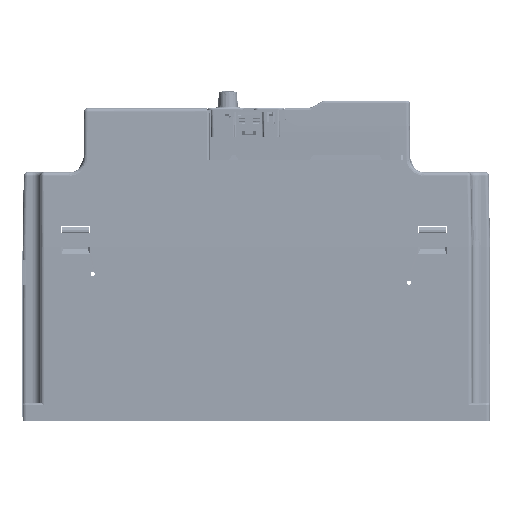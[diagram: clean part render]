
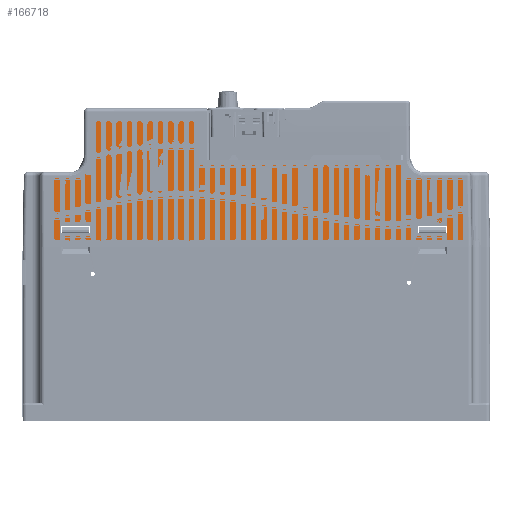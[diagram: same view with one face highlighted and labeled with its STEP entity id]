
A CAD part, left-side view. The second image highlights one B-rep face of the part: STEP entity #166718.
In plain terms, the highlighted planar face has unit normal (-1, 0, 0.018).
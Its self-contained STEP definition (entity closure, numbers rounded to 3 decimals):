
#166544=DIRECTION('',(-0.017,0.,-1.));
#166545=VECTOR('',#166544,26.639);
#166546=CARTESIAN_POINT('',(-63.106,157.5,172.124));
#166547=LINE('',#166546,#166545);
#166548=DIRECTION('',(0.,-1.,0.));
#166549=VECTOR('',#166548,111.045);
#166550=CARTESIAN_POINT('',(-63.571,157.5,145.49));
#166551=LINE('',#166550,#166549);
#166552=CARTESIAN_POINT('',(-63.571,46.455,
145.49));
#166553=CARTESIAN_POINT('',(-63.585,46.369,
144.674));
#166554=CARTESIAN_POINT('',(-63.612,46.012,
143.111));
#166555=CARTESIAN_POINT('',(-63.651,44.891,
140.884));
#166556=CARTESIAN_POINT('',(-63.684,43.269,
139.022));
#166557=CARTESIAN_POINT('',(-63.709,41.249,
137.603));
#166558=CARTESIAN_POINT('',(-63.724,38.917,
136.717));
#166559=CARTESIAN_POINT('',(-63.727,37.325,
136.525));
#166560=CARTESIAN_POINT('',(-63.727,36.506,
136.524));
#166562=DIRECTION('',(0.,-1.,0.));
#166563=VECTOR('',#166562,23.834);
#166564=CARTESIAN_POINT('',(-63.727,36.506,
136.524));
#166565=LINE('',#166564,#166563);
#166566=DIRECTION('',(-0.017,-0.017,
-1.));
#166567=VECTOR('',#166566,39.547);
#166568=CARTESIAN_POINT('',(-63.727,12.672,
136.524));
#166569=LINE('',#166568,#166567);
#166570=DIRECTION('',(0.,1.,0.));
#166571=VECTOR('',#166570,236.018);
#166572=CARTESIAN_POINT('',(-64.418,11.982,
96.99));
#166573=LINE('',#166572,#166571);
#166574=DIRECTION('',(0.017,0.,1.));
#166575=VECTOR('',#166574,39.541);
#166576=CARTESIAN_POINT('',(-64.418,248.,96.99));
#166577=LINE('',#166576,#166575);
#166578=DIRECTION('',(0.,-1.,0.));
#166579=VECTOR('',#166578,14.008);
#166580=CARTESIAN_POINT('',(-63.727,248.,136.524));
#166581=LINE('',#166580,#166579);
#166582=CARTESIAN_POINT('',(-63.727,233.992,
136.524));
#166583=CARTESIAN_POINT('',(-63.727,233.247,
136.524));
#166584=CARTESIAN_POINT('',(-63.725,231.793,
136.685));
#166585=CARTESIAN_POINT('',(-63.712,229.648,
137.423));
#166586=CARTESIAN_POINT('',(-63.691,227.738,
138.615));
#166587=CARTESIAN_POINT('',(-63.663,226.138,
140.201));
#166588=CARTESIAN_POINT('',(-63.63,224.929,
142.099));
#166589=CARTESIAN_POINT('',(-63.593,224.172,
144.239));
#166590=CARTESIAN_POINT('',(-63.567,223.998,
145.694));
#166591=CARTESIAN_POINT('',(-63.554,223.992,
146.439));
#166593=DIRECTION('',(0.017,-0.009,1.));
#166594=VECTOR('',#166593,25.69);
#166595=CARTESIAN_POINT('',(-63.554,223.992,
146.439));
#166596=LINE('',#166595,#166594);
#166597=DIRECTION('',(0.,-1.,0.));
#166598=VECTOR('',#166597,66.268);
#166599=CARTESIAN_POINT('',(-63.106,223.768,
172.124));
#166600=LINE('',#166599,#166598);
#166601=DIRECTION('',(-0.017,0.,-1.));
#166602=VECTOR('',#166601,3.901);
#166603=CARTESIAN_POINT('',(-64.212,40.,
108.79));
#166604=LINE('',#166603,#166602);
#166605=DIRECTION('',(0.,-1.,0.));
#166606=VECTOR('',#166605,16.);
#166607=CARTESIAN_POINT('',(-64.28,40.,
104.89));
#166608=LINE('',#166607,#166606);
#166609=DIRECTION('',(0.017,0.,1.));
#166610=VECTOR('',#166609,3.901);
#166611=CARTESIAN_POINT('',(-64.28,24.,
104.89));
#166612=LINE('',#166611,#166610);
#166613=DIRECTION('',(0.,1.,0.));
#166614=VECTOR('',#166613,16.);
#166615=CARTESIAN_POINT('',(-64.212,24.,
108.79));
#166616=LINE('',#166615,#166614);
#166617=DIRECTION('',(-0.017,0.,-1.));
#166618=VECTOR('',#166617,3.901);
#166619=CARTESIAN_POINT('',(-64.212,238.5,108.79));
#166620=LINE('',#166619,#166618);
#166621=DIRECTION('',(0.,-1.,0.));
#166622=VECTOR('',#166621,16.);
#166623=CARTESIAN_POINT('',(-64.28,238.5,104.89));
#166624=LINE('',#166623,#166622);
#166625=DIRECTION('',(0.017,0.,1.));
#166626=VECTOR('',#166625,3.901);
#166627=CARTESIAN_POINT('',(-64.28,222.5,104.89));
#166628=LINE('',#166627,#166626);
#166629=DIRECTION('',(0.,1.,0.));
#166630=VECTOR('',#166629,16.);
#166631=CARTESIAN_POINT('',(-64.212,222.5,108.79));
#166632=LINE('',#166631,#166630);
#166633=CARTESIAN_POINT('',(-63.571,157.5,145.49));
#166634=CARTESIAN_POINT('',(-63.106,157.5,172.124));
#166635=VERTEX_POINT('',#166633);
#166636=VERTEX_POINT('',#166634);
#166637=CARTESIAN_POINT('',(-63.106,223.768,
172.124));
#166638=VERTEX_POINT('',#166637);
#166639=CARTESIAN_POINT('',(-63.554,223.992,
146.439));
#166640=VERTEX_POINT('',#166639);
#166641=VERTEX_POINT('',#166582);
#166642=CARTESIAN_POINT('',(-63.727,248.,136.524));
#166643=VERTEX_POINT('',#166642);
#166644=CARTESIAN_POINT('',(-64.418,248.,96.99));
#166645=VERTEX_POINT('',#166644);
#166646=CARTESIAN_POINT('',(-64.418,11.982,
96.99));
#166647=VERTEX_POINT('',#166646);
#166648=CARTESIAN_POINT('',(-63.727,12.672,
136.524));
#166649=VERTEX_POINT('',#166648);
#166650=CARTESIAN_POINT('',(-63.727,36.506,
136.524));
#166651=VERTEX_POINT('',#166650);
#166652=VERTEX_POINT('',#166552);
#166653=CARTESIAN_POINT('',(-64.28,40.,
104.89));
#166654=CARTESIAN_POINT('',(-64.212,40.,
108.79));
#166655=VERTEX_POINT('',#166653);
#166656=VERTEX_POINT('',#166654);
#166657=CARTESIAN_POINT('',(-64.212,24.,
108.79));
#166658=VERTEX_POINT('',#166657);
#166659=CARTESIAN_POINT('',(-64.28,24.,
104.89));
#166660=VERTEX_POINT('',#166659);
#166661=CARTESIAN_POINT('',(-64.28,238.5,104.89));
#166662=CARTESIAN_POINT('',(-64.212,238.5,108.79));
#166663=VERTEX_POINT('',#166661);
#166664=VERTEX_POINT('',#166662);
#166665=CARTESIAN_POINT('',(-64.212,222.5,108.79));
#166666=VERTEX_POINT('',#166665);
#166667=CARTESIAN_POINT('',(-64.28,222.5,104.89));
#166668=VERTEX_POINT('',#166667);
#166669=CARTESIAN_POINT('',(-63.762,129.991,
134.557));
#166670=DIRECTION('',(1.,0.,-0.017));
#166671=DIRECTION('',(0.,1.,0.));
#166672=AXIS2_PLACEMENT_3D('',#166669,#166670,#166671);
#166673=PLANE('',#166672);
#166675=ORIENTED_EDGE('',*,*,#166674,.T.);
#166677=ORIENTED_EDGE('',*,*,#166676,.T.);
#166679=ORIENTED_EDGE('',*,*,#166678,.T.);
#166681=ORIENTED_EDGE('',*,*,#166680,.T.);
#166683=ORIENTED_EDGE('',*,*,#166682,.T.);
#166685=ORIENTED_EDGE('',*,*,#166684,.T.);
#166687=ORIENTED_EDGE('',*,*,#166686,.T.);
#166689=ORIENTED_EDGE('',*,*,#166688,.T.);
#166691=ORIENTED_EDGE('',*,*,#166690,.T.);
#166693=ORIENTED_EDGE('',*,*,#166692,.T.);
#166695=ORIENTED_EDGE('',*,*,#166694,.T.);
#166696=EDGE_LOOP('',(#166675,#166677,#166679,#166681,#166683,#166685,#166687,
#166689,#166691,#166693,#166695));
#166697=FACE_OUTER_BOUND('',#166696,.F.);
#166699=ORIENTED_EDGE('',*,*,#166698,.T.);
#166701=ORIENTED_EDGE('',*,*,#166700,.T.);
#166703=ORIENTED_EDGE('',*,*,#166702,.T.);
#166705=ORIENTED_EDGE('',*,*,#166704,.T.);
#166706=EDGE_LOOP('',(#166699,#166701,#166703,#166705));
#166707=FACE_BOUND('',#166706,.F.);
#166709=ORIENTED_EDGE('',*,*,#166708,.T.);
#166711=ORIENTED_EDGE('',*,*,#166710,.T.);
#166713=ORIENTED_EDGE('',*,*,#166712,.T.);
#166715=ORIENTED_EDGE('',*,*,#166714,.T.);
#166716=EDGE_LOOP('',(#166709,#166711,#166713,#166715));
#166717=FACE_BOUND('',#166716,.F.);
#166561=B_SPLINE_CURVE_WITH_KNOTS('',3,(#166552,#166553,#166554,#166555,#166556,
#166557,#166558,#166559,#166560),.UNSPECIFIED.,.F.,.F.,(4,1,1,1,1,1,4),(0.,
0.167,0.333,0.5,0.667,0.833,
1.),.UNSPECIFIED.);
#166592=B_SPLINE_CURVE_WITH_KNOTS('',3,(#166582,#166583,#166584,#166585,#166586,
#166587,#166588,#166589,#166590,#166591),.UNSPECIFIED.,.F.,.F.,(4,1,1,1,1,1,1,
4),(0.,0.143,0.286,0.429,
0.571,0.714,0.857,1.),.UNSPECIFIED.);
#166674=EDGE_CURVE('',#166636,#166635,#166547,.T.);
#166676=EDGE_CURVE('',#166635,#166652,#166551,.T.);
#166678=EDGE_CURVE('',#166652,#166651,#166561,.T.);
#166680=EDGE_CURVE('',#166651,#166649,#166565,.T.);
#166682=EDGE_CURVE('',#166649,#166647,#166569,.T.);
#166684=EDGE_CURVE('',#166647,#166645,#166573,.T.);
#166686=EDGE_CURVE('',#166645,#166643,#166577,.T.);
#166688=EDGE_CURVE('',#166643,#166641,#166581,.T.);
#166690=EDGE_CURVE('',#166641,#166640,#166592,.T.);
#166692=EDGE_CURVE('',#166640,#166638,#166596,.T.);
#166694=EDGE_CURVE('',#166638,#166636,#166600,.T.);
#166698=EDGE_CURVE('',#166656,#166655,#166604,.T.);
#166700=EDGE_CURVE('',#166655,#166660,#166608,.T.);
#166702=EDGE_CURVE('',#166660,#166658,#166612,.T.);
#166704=EDGE_CURVE('',#166658,#166656,#166616,.T.);
#166708=EDGE_CURVE('',#166664,#166663,#166620,.T.);
#166710=EDGE_CURVE('',#166663,#166668,#166624,.T.);
#166712=EDGE_CURVE('',#166668,#166666,#166628,.T.);
#166714=EDGE_CURVE('',#166666,#166664,#166632,.T.);
#166718=ADVANCED_FACE('',(#166697,#166707,#166717),#166673,.F.);
